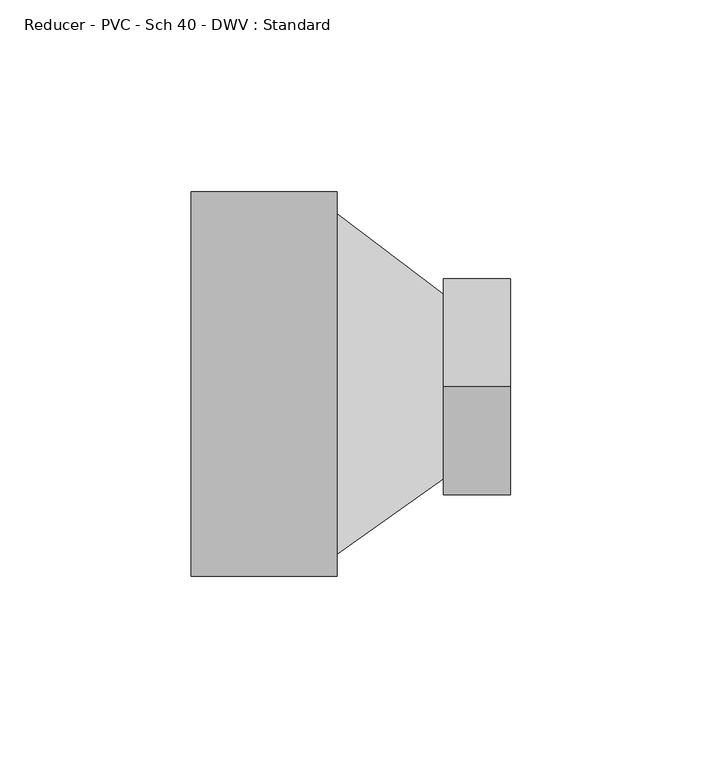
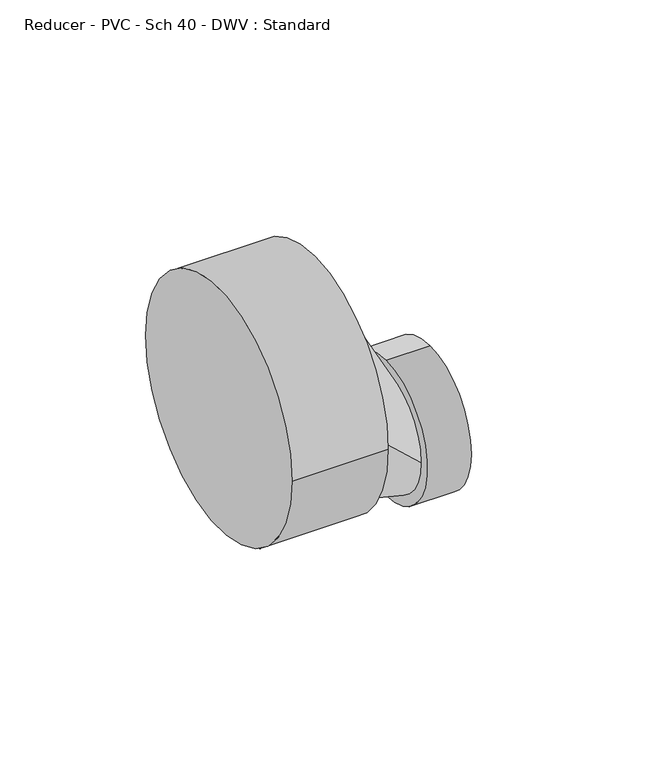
"""IFC4 building model written with IfcOpenShell, lengths in millimetres: pipe fitting geometry, Reducer - PVC - Sch 40 - DWV : Standard."""

from ifc_helpers import new_model, si_unit, frame, origin, place, context, project, spatial, circle_curve, source, transform, mapped, element, save
from ifc_brep_helpers import plane_surface, cylinder_surface, spline_surface, advanced_brep


def reducer_pvc_sch_40_dwv_standard_deb4f40a(model_context):
    return source(origin(), model_context, "Body", "AdvancedBrep", [
        advanced_brep(
        [(0.0, -50.2666, 0.0), (0.0, 50.2666, 0.0), (38.1, -50.2666, 0.0), (38.1, 50.2666, 0.0), (38.1, 44.45, 0.0), (38.1, -44.45, 0.0), (65.8876, 23.4875729, -30.8437884), (65.8876, -24.7724271, -30.8437884), (65.8876, -0.6424271, -2.5608884), (65.8876, -0.6424271, -59.1266884), (83.3374, -0.6424271, -2.5608884), (83.3374, -0.6424271, -59.1266884)],
        [
            (0, 1, circle_curve(frame((0.0, 0.0, 0.0), z_axis=(-1.0, 0.0, 0.0), x_axis=(0.0, 1.0, 0.0)), 50.2666)),
            (1, 0, circle_curve(frame((0.0, 0.0, 0.0), z_axis=(-1.0, 0.0, 0.0), x_axis=(0.0, 1.0, 0.0)), 50.2666)),
            (2, 3, circle_curve(frame((38.1, 0.0, 0.0), z_axis=(1.0, 0.0, 0.0), x_axis=(0.0, 1.0, 0.0)), 50.2666)),
            (3, 2, circle_curve(frame((38.1, 0.0, 0.0), z_axis=(1.0, 0.0, 0.0), x_axis=(0.0, 1.0, 0.0)), 50.2666)),
            (4, 5, circle_curve(frame((38.1, 0.0, 0.0), z_axis=(-1.0, 0.0, 0.0), x_axis=(0.0, 1.0, 0.0)), 44.45)),
            (5, 4, circle_curve(frame((38.1, 0.0, 0.0), z_axis=(-1.0, 0.0, 0.0), x_axis=(0.0, 1.0, 0.0)), 44.45)),
            (0, 2),
            (3, 1),
            (4, 6),
            (6, 7, circle_curve(frame((65.8876, -0.6424271, -30.8437884), z_axis=(-1.0, 0.0, 0.0), x_axis=(0.0, 1.0, 0.0)), 24.13)),
            (7, 5),
            (7, 6, circle_curve(frame((65.8876, -0.6424271, -30.8437884), z_axis=(-1.0, 0.0, 0.0), x_axis=(0.0, 1.0, 0.0)), 24.13)),
            (8, 9, circle_curve(frame((65.8876, -0.6424271, -30.8437884), z_axis=(-1.0, 0.0, 0.0), x_axis=(0.0, 0.0, -1.0)), 28.2829)),
            (9, 8, circle_curve(frame((65.8876, -0.6424271, -30.8437884), z_axis=(-1.0, 0.0, 0.0), x_axis=(0.0, 0.0, -1.0)), 28.2829)),
            (10, 11, circle_curve(frame((83.3374, -0.6424271, -30.8437884), z_axis=(1.0, 0.0, 0.0), x_axis=(0.0, 0.0, -1.0)), 28.2829)),
            (11, 10, circle_curve(frame((83.3374, -0.6424271, -30.8437884), z_axis=(1.0, 0.0, 0.0), x_axis=(0.0, 0.0, -1.0)), 28.2829)),
            (8, 10),
            (11, 9),
        ],
        [
            plane_surface(frame((0.0, 0.0, 0.0), z_axis=(-1.0, 0.0, 0.0), x_axis=(0.0, 0.0, 1.0))),
            plane_surface(frame((38.1, 0.0, 0.0), z_axis=(1.0, 0.0, 0.0), x_axis=(0.0, 0.0, 1.0))),
            cylinder_surface(frame((0.0, 0.0, 0.0), z_axis=(-1.0, 0.0, 0.0), x_axis=(0.0, 1.0, 0.0)), 50.2666),
            spline_surface(2, 1, [[(38.1, -44.45, 0.0), (65.8876, -24.7724271, -30.8437884)], [(38.1, -44.45, -44.45), (65.8876, -24.7724271, -54.973788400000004)], [(38.1, 0.0, -44.45), (65.8876, -0.6424271, -54.973788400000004)], [(38.1, 44.45, -44.45), (65.8876, 23.487572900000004, -54.973788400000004)], [(38.1, 44.45, 0.0), (65.8876, 23.4875729, -30.8437884)]], [3, 2, 3], [2, 2], [0.0, 1.0, 2.0], [0.0, 1.0], weights=[[1.0, 1.0], [0.7071067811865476, 0.7071067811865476], [1.0, 1.0], [0.7071067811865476, 0.7071067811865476], [1.0, 1.0]]),
            spline_surface(2, 1, [[(38.1, 44.45, 0.0), (65.8876, 23.4875729, -30.8437884)], [(38.1, 44.45, 44.45), (65.8876, 23.4875729, -6.713788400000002)], [(38.1, 0.0, 44.45), (65.8876, -0.6424271, -6.713788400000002)], [(38.1, -44.45, 44.45), (65.8876, -24.772427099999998, -6.713788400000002)], [(38.1, -44.45, 0.0), (65.8876, -24.7724271, -30.8437884)]], [3, 2, 3], [2, 2], [0.0, 1.0, 2.0], [0.0, 1.0], weights=[[1.0, 1.0], [0.7071067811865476, 0.7071067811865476], [1.0, 1.0], [0.7071067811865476, 0.7071067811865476], [1.0, 1.0]]),
            plane_surface(frame((65.8876, -0.6424271, -30.8437884), z_axis=(-1.0, 0.0, 0.0), x_axis=(0.0, 1.0, 0.0))),
            plane_surface(frame((83.3374, -0.6424271, -30.8437884), z_axis=(1.0, 0.0, 0.0), x_axis=(0.0, 1.0, 0.0))),
            cylinder_surface(frame((65.8876, -0.6424271, -30.8437884), z_axis=(-1.0, 0.0, 0.0), x_axis=(0.0, 0.0, -1.0)), 28.2829),
        ],
        [
            (0, [[1, 2]]),
            (1, [[3, 4], [5, 6]]),
            (2, [[-1, 7, -4, 8]]),
            (2, [[-2, -8, -3, -7]]),
            (3, [[9, 10, 11, -5]]),
            (4, [[-9, -6, -11, 12]]),
            (5, [[13, 14], [-10, -12]]),
            (6, [[15, 16]]),
            (7, [[-13, 17, -16, 18]]),
            (7, [[-14, -18, -15, -17]]),
        ],
    ),
    ])


if __name__ == "__main__":
    model = new_model("IFC4")
    model_context = context("Model", 3, world=origin())
    ifc_project = project(units=[si_unit("LENGTHUNIT", "METRE", prefix="MILLI")], contexts=[model_context])
    site = spatial("IfcSite", under=ifc_project)
    building = spatial("IfcBuilding", under=site)
    placement = place(None, origin())
    reducer_pvc_sch_40_dwv_standard_shape = reducer_pvc_sch_40_dwv_standard_deb4f40a(model_context)
    element("IfcPipeFitting", 1, ObjectType="Reducer - PVC - Sch 40 - DWV : Standard", at=placement, inside=building, context=model_context, shape_type="MappedRepresentation", body=[
        mapped(reducer_pvc_sch_40_dwv_standard_shape, transform((0.0, 0.0, 0.0), x_axis=(1.0, 0.0, 0.0), y_axis=(0.0, 1.0, 0.0), z_axis=(0.0, 0.0, 1.0))),
    ])
    save(model, "model.ifc")
